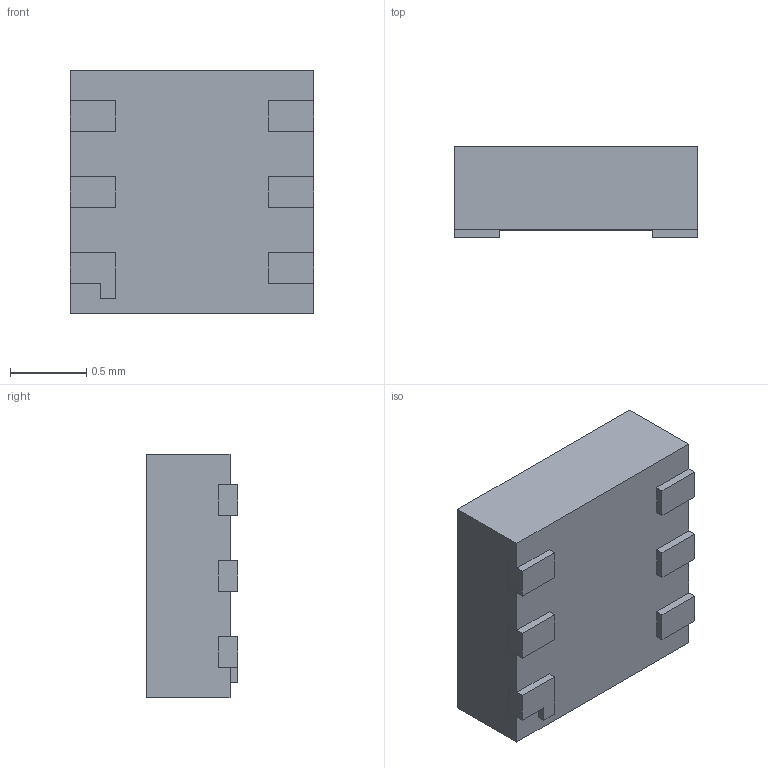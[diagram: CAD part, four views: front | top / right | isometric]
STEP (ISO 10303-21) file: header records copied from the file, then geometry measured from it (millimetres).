
FILE_DESCRIPTION (( 'STEP AP214' ), '1' );
FILE_NAME ('SN74LVC1T45DPKR.STEP', '2022-09-22T17:17:46', ( '' ), ( '' ), 'SwSTEP 2.0', 'SolidWorks 2017', '' );
FILE_SCHEMA (( 'AUTOMOTIVE_DESIGN' ));
Length unit declared in the file: millimetre
Products named in the file (1): SN74LVC1T45DPKR
Bounding box: 1.6 x 0.6 x 1.6 mm (x, y, z)
Volume: 1.4 mm3; surface area: 10.6 mm2
Topology: 8 solids, 8 shells, 77 faces, 180 edges, 120 vertices
Faces by surface type: plane 73, cylinder 4
Entity records: 2259 total; most frequent: CARTESIAN_POINT 378, ORIENTED_EDGE 360, DIRECTION 344, EDGE_CURVE 180, VECTOR 172, LINE 172, VERTEX_POINT 120, AXIS2_PLACEMENT_3D 86
